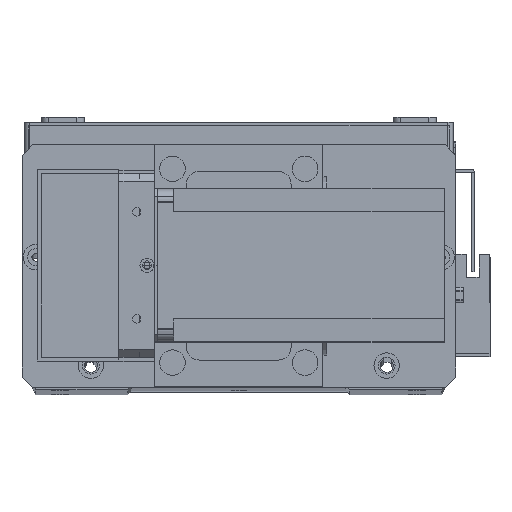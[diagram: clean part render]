
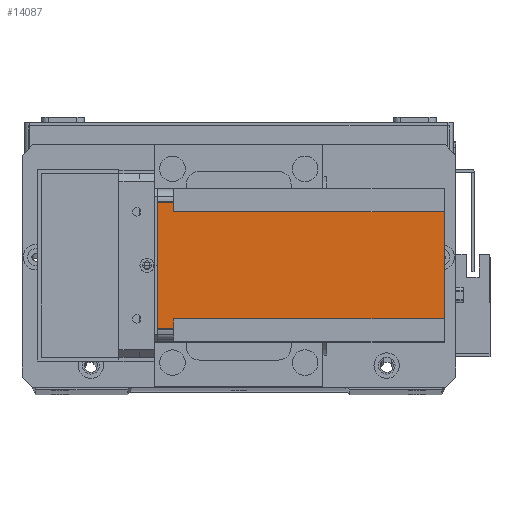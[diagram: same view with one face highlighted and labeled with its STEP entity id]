
A CAD part, top view. The second image highlights one B-rep face of the part: STEP entity #14087.
In plain terms, the highlighted planar face has unit normal (0, 0, 1) as drawn and (-1, 0, 0) by its records, which use the part's own axes.
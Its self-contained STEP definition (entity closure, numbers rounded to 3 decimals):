
#398 = CARTESIAN_POINT ( 'NONE',  ( 0., 55., -112.5 ) ) ;
#522 = CARTESIAN_POINT ( 'NONE',  ( 0., 51., -112.5 ) ) ;
#1150 = CARTESIAN_POINT ( 'NONE',  ( 0., 60., -6.5 ) ) ;
#1970 = EDGE_CURVE ( 'NONE', #31333, #21552, #7831, .T. ) ;
#2590 = EDGE_CURVE ( 'NONE', #31333, #15016, #19742, .T. ) ;
#4589 = ORIENTED_EDGE ( 'NONE', *, *, #1970, .T. ) ;
#4784 = LINE ( 'NONE', #1150, #29337 ) ;
#5069 = FACE_OUTER_BOUND ( 'NONE', #20369, .T. ) ;
#5321 = DIRECTION ( 'NONE',  ( 0., 0., -1. ) ) ;
#5724 = VECTOR ( 'NONE', #21925, 1000. ) ;
#6348 = LINE ( 'NONE', #21895, #31662 ) ;
#6631 = VERTEX_POINT ( 'NONE', #30190 ) ;
#7079 = VERTEX_POINT ( 'NONE', #26164 ) ;
#7768 = VECTOR ( 'NONE', #12765, 1000. ) ;
#7831 = LINE ( 'NONE', #13447, #11306 ) ;
#9212 = ORIENTED_EDGE ( 'NONE', *, *, #23939, .T. ) ;
#9663 = CARTESIAN_POINT ( 'NONE',  ( 0., 0., -6.5 ) ) ;
#9757 = AXIS2_PLACEMENT_3D ( 'NONE', #27239, #29681, #15026 ) ;
#9787 = EDGE_CURVE ( 'NONE', #14149, #21552, #22913, .T. ) ;
#10041 = CARTESIAN_POINT ( 'NONE',  ( 0., 0., 0. ) ) ;
#10049 = PLANE ( 'NONE',  #9757 ) ;
#10716 = EDGE_CURVE ( 'NONE', #12452, #7079, #6348, .T. ) ;
#10929 = CARTESIAN_POINT ( 'NONE',  ( 0., 51., -112.5 ) ) ;
#11306 = VECTOR ( 'NONE', #30579, 1000. ) ;
#11521 = ORIENTED_EDGE ( 'NONE', *, *, #28635, .F. ) ;
#12117 = DIRECTION ( 'NONE',  ( 0., 0., 1. ) ) ;
#12248 = LINE ( 'NONE', #9663, #5724 ) ;
#12452 = VERTEX_POINT ( 'NONE', #27232 ) ;
#12765 = DIRECTION ( 'NONE',  ( 0., 0., -1. ) ) ;
#13447 = CARTESIAN_POINT ( 'NONE',  ( 0., 0., -112.5 ) ) ;
#14087 = ADVANCED_FACE ( 'NONE', ( #5069 ), #10049, .T. ) ;
#14149 = VERTEX_POINT ( 'NONE', #15336 ) ;
#15016 = VERTEX_POINT ( 'NONE', #23517 ) ;
#15026 = DIRECTION ( 'NONE',  ( 0., -1., 0. ) ) ;
#15336 = CARTESIAN_POINT ( 'NONE',  ( 0., 9., -6.5 ) ) ;
#15573 = ORIENTED_EDGE ( 'NONE', *, *, #31509, .F. ) ;
#15884 = DIRECTION ( 'NONE',  ( 0., 1., 0. ) ) ;
#17562 = CARTESIAN_POINT ( 'NONE',  ( 0., 9., -112.5 ) ) ;
#18963 = VECTOR ( 'NONE', #20724, 1000. ) ;
#19742 = LINE ( 'NONE', #10929, #18963 ) ;
#20369 = EDGE_LOOP ( 'NONE', ( #11521, #28384, #22231, #9212, #15573, #29028, #4589, #28548 ) ) ;
#20724 = DIRECTION ( 'NONE',  ( 0., 0., 1. ) ) ;
#21552 = VERTEX_POINT ( 'NONE', #24180 ) ;
#21895 = CARTESIAN_POINT ( 'NONE',  ( 0., 5., -112.5 ) ) ;
#21925 = DIRECTION ( 'NONE',  ( 0., 1., 0. ) ) ;
#22231 = ORIENTED_EDGE ( 'NONE', *, *, #22732, .F. ) ;
#22732 = EDGE_CURVE ( 'NONE', #29315, #7079, #30117, .T. ) ;
#22913 = LINE ( 'NONE', #17562, #29447 ) ;
#23517 = CARTESIAN_POINT ( 'NONE',  ( 0., 51., -6.5 ) ) ;
#23939 = EDGE_CURVE ( 'NONE', #29315, #6631, #27371, .T. ) ;
#24180 = CARTESIAN_POINT ( 'NONE',  ( 0., 9., -112.5 ) ) ;
#24741 = DIRECTION ( 'NONE',  ( 0., -1., 0. ) ) ;
#26164 = CARTESIAN_POINT ( 'NONE',  ( 0., 5., 0. ) ) ;
#26305 = VECTOR ( 'NONE', #24741, 1000. ) ;
#26638 = CARTESIAN_POINT ( 'NONE',  ( 0., 55., 0. ) ) ;
#27232 = CARTESIAN_POINT ( 'NONE',  ( 0., 5., -6.5 ) ) ;
#27239 = CARTESIAN_POINT ( 'NONE',  ( 0., 0., -112.5 ) ) ;
#27371 = LINE ( 'NONE', #398, #7768 ) ;
#28384 = ORIENTED_EDGE ( 'NONE', *, *, #10716, .T. ) ;
#28548 = ORIENTED_EDGE ( 'NONE', *, *, #9787, .F. ) ;
#28635 = EDGE_CURVE ( 'NONE', #12452, #14149, #12248, .T. ) ;
#29028 = ORIENTED_EDGE ( 'NONE', *, *, #2590, .F. ) ;
#29315 = VERTEX_POINT ( 'NONE', #26638 ) ;
#29337 = VECTOR ( 'NONE', #15884, 1000. ) ;
#29447 = VECTOR ( 'NONE', #5321, 1000. ) ;
#29681 = DIRECTION ( 'NONE',  ( -1., 0., 0. ) ) ;
#30117 = LINE ( 'NONE', #10041, #26305 ) ;
#30190 = CARTESIAN_POINT ( 'NONE',  ( 0., 55., -6.5 ) ) ;
#30579 = DIRECTION ( 'NONE',  ( 0., -1., 0. ) ) ;
#31333 = VERTEX_POINT ( 'NONE', #522 ) ;
#31509 = EDGE_CURVE ( 'NONE', #15016, #6631, #4784, .T. ) ;
#31662 = VECTOR ( 'NONE', #12117, 1000. ) ;
